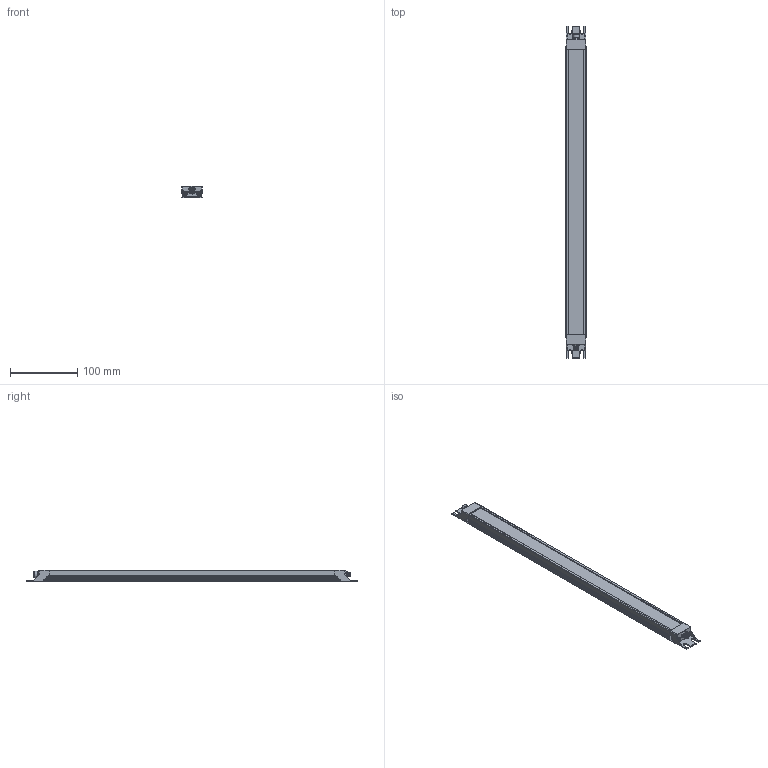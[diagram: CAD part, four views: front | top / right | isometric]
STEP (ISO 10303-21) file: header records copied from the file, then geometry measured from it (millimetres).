
FILE_DESCRIPTION(/* description */ (''),/* implementation_level */ '2;1');
FILE_NAME(/* name */ '1-000000-07647 LED SL-RGBW 420 S-PMMAd-M8d-65.stp',/* time_stamp */ '2023-11-02T13:30:55+01:00',/* author */ ('sfischer'),/* organization */ (''),/* preprocessor_version */ 'ST-DEVELOPER v20',/* originating_system */ 'Autodesk Inventor 2024',/* authorisation */ '');
FILE_SCHEMA (('AUTOMOTIVE_DESIGN { 1 0 10303 214 3 1 1 }'));
Length unit declared in the file: millimetre
Products named in the file (1): 1-000000-07647 LED SL-RGBW 420 S-PMMAd-M8d-65
Bounding box: 30 x 495 x 17.55 mm (x, y, z)
Volume: 199761.6 mm3; surface area: 64682.4 mm2
Topology: 1 solids, 1 shells, 589 faces, 1528 edges, 939 vertices
Faces by surface type: cylinder 233, plane 227, cone 59, bspline 33, sphere 29, torus 8
Full cylindrical faces by diameter (mm): 0.3 x1, 1 x5, 1.05 x5, 5.5 x4, 6.4 x2, 7 x1, 7.25 x1, 7.4 x1, 8 x1, 8.1 x2, 8.2 x1, 9.7 x1
Entity records: 19792 total; most frequent: CARTESIAN_POINT 4902, DIRECTION 3023, ORIENTED_EDGE 2990, EDGE_CURVE 1495, AXIS2_PLACEMENT_3D 1157, VERTEX_POINT 939, LINE 709, VECTOR 709
